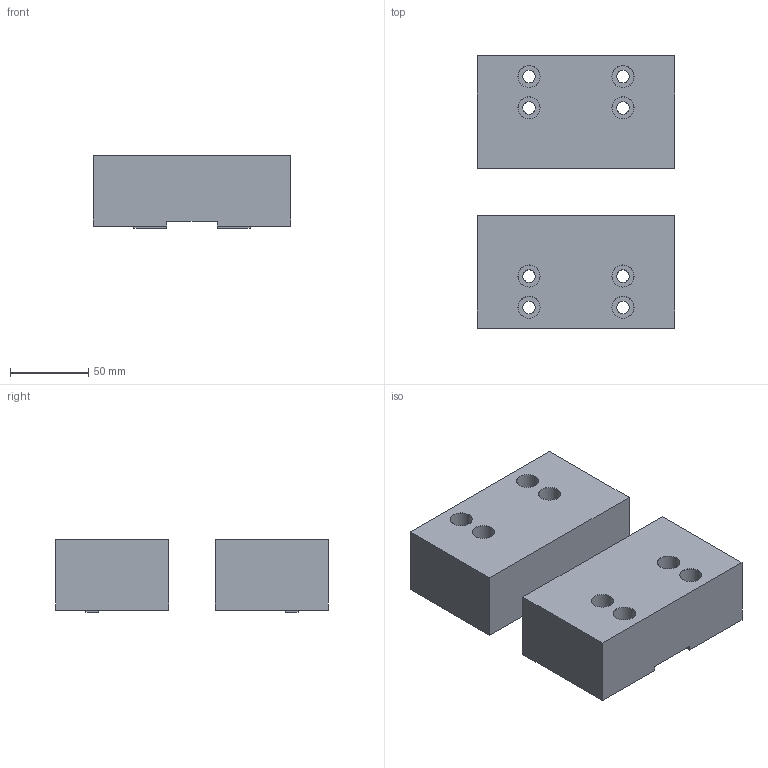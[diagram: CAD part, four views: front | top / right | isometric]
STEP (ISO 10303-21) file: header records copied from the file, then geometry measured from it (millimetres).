
FILE_DESCRIPTION (( 'STEP AP214' ), '1' );
FILE_NAME ('VAJ-APV-160-RENDER.STEP', '2026-07-20T17:42:09', ( '' ), ( '' ), 'SwSTEP 2.0', 'SolidWorks 2024', '' );
FILE_SCHEMA (( 'AUTOMOTIVE_DESIGN' ));
Length unit declared in the file: millimetre
Products named in the file (2): APV-160-5; VAJ-APV-160-RENDER
Assembly tree (2 placements, depth 2):
  VAJ-APV-160-RENDER
    APV-160-5  x2
Bounding box: 125.98 x 174 x 46.5 mm (x, y, z)
Volume: 762023.1 mm3; surface area: 85202.5 mm2
Topology: 2 solids, 2 shells, 68 faces, 168 edges, 112 vertices
Faces by surface type: plane 44, cylinder 16, cone 8
Full cylindrical faces by diameter (mm): 8 x8, 14 x8
Entity records: 991 total; most frequent: DIRECTION 166, CARTESIAN_POINT 159, ORIENTED_EDGE 136, EDGE_CURVE 68, AXIS2_PLACEMENT_3D 59, EDGE_LOOP 58, VERTEX_POINT 52, VECTOR 48
